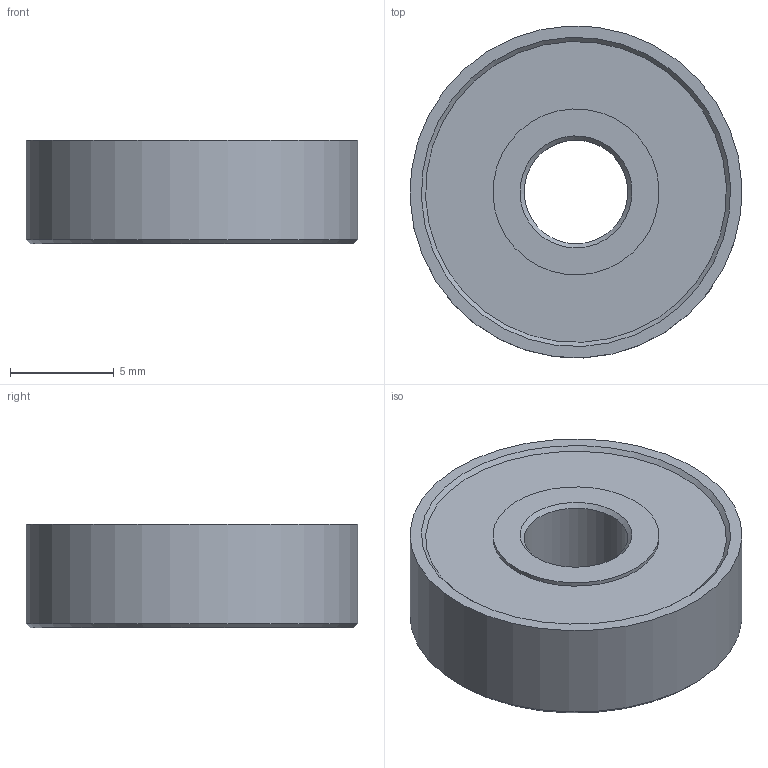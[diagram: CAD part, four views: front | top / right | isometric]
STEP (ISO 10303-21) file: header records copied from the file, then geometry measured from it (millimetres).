
FILE_DESCRIPTION(/* description */ ('STEP AP242 Edition 2','CAx-IF Rec.Pracs.---Representation and Presentation of Product Manufacturing Information (PMI)---4.0---2014-10-13','CAx-IF Rec.Pracs.---3D Tessellated Geometry---0.4---2014-09-14','2;1','CAx-IF Rec.Pracs.---User Defined Attributes---1.5---2016-08-15'),/* implementation_level */ '2;1');
FILE_NAME(/* name */ 'Final Build - Precision Ball Bearing_8',/* time_stamp */ '2026-08-31T23:26:26Z',/* author */ (''),/* organization */ (''),/* preprocessor_version */ 'ST-DEVELOPER v20',/* originating_system */ 'ONSHAPE BY PTC INC, 1.220',/* authorisation */ ' ');
FILE_SCHEMA (('AP242_MANAGED_MODEL_BASED_3D_ENGINEERING_MIM_LF { 1 0 10303 442 3 1 4 }'));
Length unit declared in the file: metre
Products named in the file (1): Precision Ball Bearing_8
Bounding box: 15.98 x 15.98 x 5 mm (x, y, z)
Volume: 858.6 mm3; surface area: 706.2 mm2
Topology: 1 solids, 1 shells, 15 faces, 24 edges, 15 vertices
Faces by surface type: plane 6, cylinder 5, cone 4
Full cylindrical faces by diameter (mm): 5 x1, 8 x2, 14.5 x1, 16 x1
Entity records: 330 total; most frequent: DIRECTION 62, CARTESIAN_POINT 46, AXIS2_PLACEMENT_3D 31, ORIENTED_EDGE 30, EDGE_LOOP 30, FACE_BOUND 30, EDGE_CURVE 15, VERTEX_POINT 15
